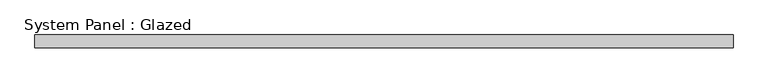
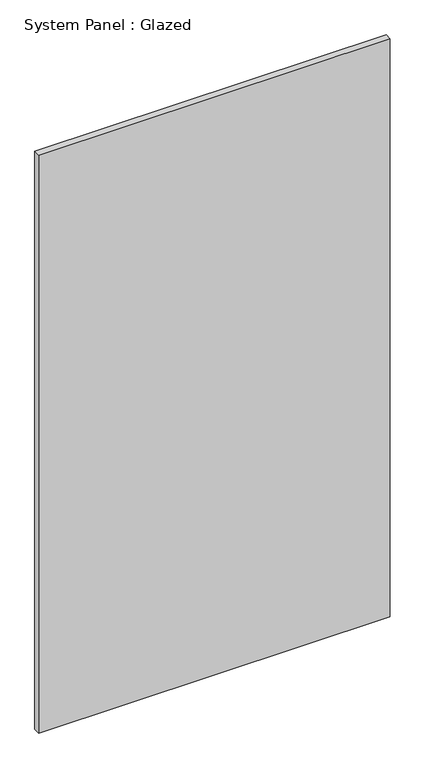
"""IFC4 building model written with IfcOpenShell, lengths in millimetres: plate geometry, System Panel : Glazed."""

from ifc_helpers import new_model, si_unit, origin, origin_with_axes, place, context, project, spatial, polyline, outline, extrude, source, transform, mapped, element, save


def system_panel_glazed_6032f2be(model_context):
    return source(origin(), model_context, "Body", "SweptSolid", [
        extrude(outline(polyline([(688.0142442, -49.5), (-688.0142442, -49.5), (-688.0142442, -24.5), (688.0142442, -24.5), (688.0142442, -49.5)])), origin_with_axes(), (0.0, 0.0, 1.0), 2390.0),
    ])


if __name__ == "__main__":
    model = new_model("IFC4")
    model_context = context("Model", 3, world=origin())
    ifc_project = project(units=[si_unit("LENGTHUNIT", "METRE", prefix="MILLI")], contexts=[model_context])
    site = spatial("IfcSite", under=ifc_project)
    building = spatial("IfcBuilding", under=site)
    placement = place(None, origin())
    system_panel_glazed_shape = system_panel_glazed_6032f2be(model_context)
    element("IfcPlate", 1, ObjectType="System Panel : Glazed", at=placement, inside=building, context=model_context, shape_type="MappedRepresentation", body=[
        mapped(system_panel_glazed_shape, transform((0.0, 0.0, 0.0), x_axis=(1.0, 0.0, 0.0), y_axis=(0.0, 1.0, 0.0), z_axis=(0.0, 0.0, 1.0))),
    ])
    save(model, "model.ifc")
